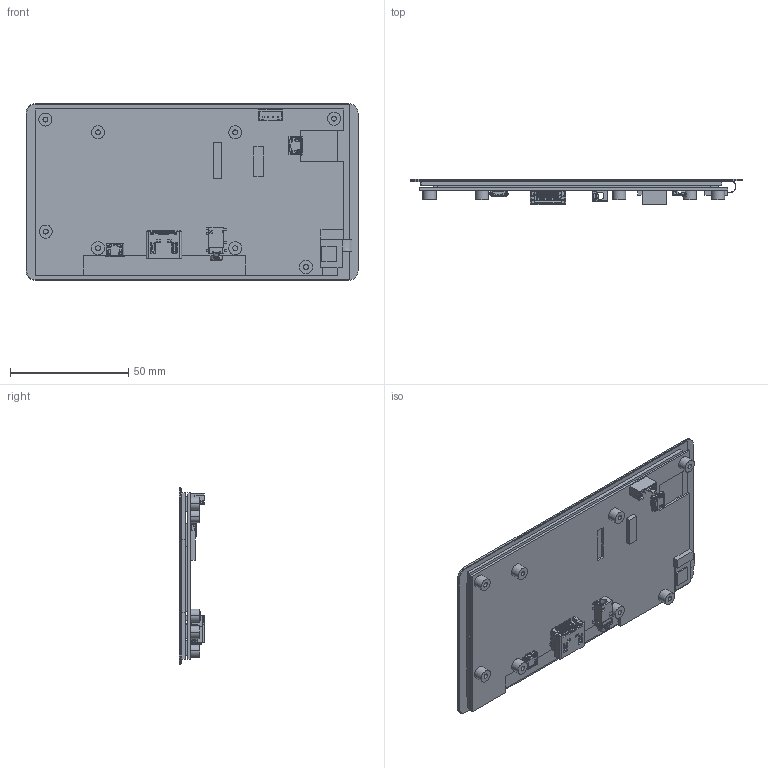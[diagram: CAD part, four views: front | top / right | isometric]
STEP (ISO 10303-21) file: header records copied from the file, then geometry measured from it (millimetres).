
FILE_DESCRIPTION((''),'2;1');
FILE_NAME('5_5INCH-1440X2560-LCD_ASM','2022-11-07T16:17:39',('xiaojisheng'),(''),'CREO PARAMETRIC BY PTC INC, 2021063','CREO PARAMETRIC BY PTC INC, 2021063','');
FILE_SCHEMA(('CONFIG_CONTROL_DESIGN','SHAPE_APPEARANCE_LAYERS_GROUPS'));
Products named in the file (8): 5_5INCH-1440X2560-TP; 5_5INCH-1440X2560-LCD; 5_5INCH-1440X2560-LCD-PCBA; USB-J4_10118194_606F1A; HDMI-J1_47151-0001_61277A9B; 5_5INCH-EVA; HP_SMT; 5_5INCH-1440X2560-LCD_ASM
Assembly tree (8 placements, depth 2):
  5_5INCH-1440X2560-LCD_ASM
    5_5INCH-1440X2560-TP
    5_5INCH-1440X2560-LCD
    5_5INCH-1440X2560-LCD-PCBA
    USB-J4_10118194_606F1A  x2
    HDMI-J1_47151-0001_61277A9B
    5_5INCH-EVA
    HP_SMT
Bounding box: 140.4 x 10.88 x 74.76 mm (x, y, z)
Volume: 36289.8 mm3; surface area: 65002 mm2
Topology: 22 solids, 1291 shells, 3117 faces, 12453 edges, 10604 vertices
Faces by surface type: plane 2121, cylinder 905, cone 24, bspline 24, extrusion 22, sphere 13, torus 8
Entity records: 117084 total; most frequent: CARTESIAN_POINT 23951, DIRECTION 14421, ORIENTED_EDGE 14200, EDGE_CURVE 8877, VERTEX_POINT 7050, VECTOR 6761, LINE 6749, AXIS2_PLACEMENT_3D 3830
